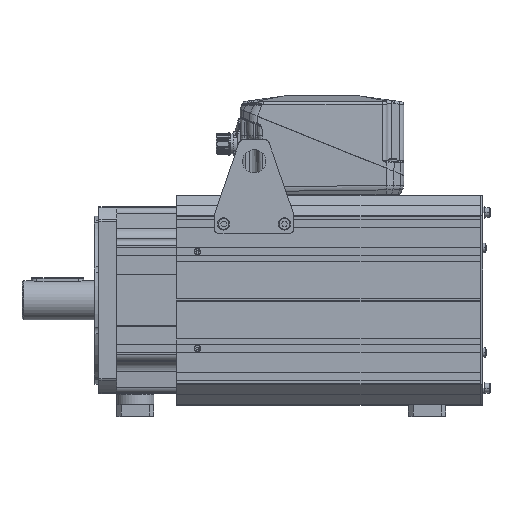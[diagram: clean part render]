
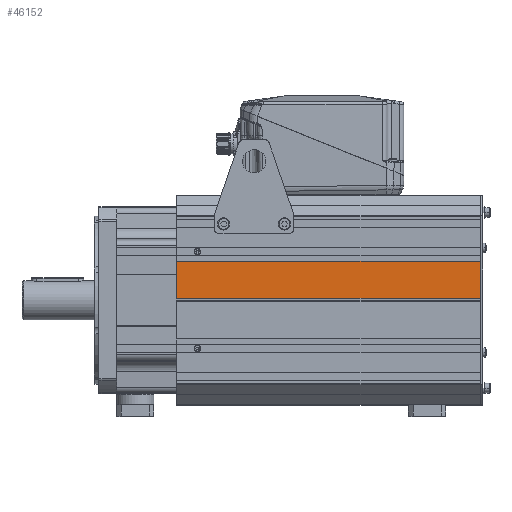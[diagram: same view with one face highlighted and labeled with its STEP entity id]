
A CAD part, top view. The second image highlights one B-rep face of the part: STEP entity #46152.
In plain terms, the highlighted planar face has unit normal (0, 0, 1).
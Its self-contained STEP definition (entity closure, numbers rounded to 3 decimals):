
#44416=DIRECTION('',(0.,-1.,0.));
#44417=VECTOR('',#44416,39.5);
#44418=CARTESIAN_POINT('',(165.5,41.5,111.5));
#44419=LINE('',#44418,#44417);
#44933=DIRECTION('',(1.,0.,0.));
#44934=VECTOR('',#44933,324.);
#44935=CARTESIAN_POINT('',(165.5,41.5,111.5));
#44936=LINE('',#44935,#44934);
#44937=DIRECTION('',(0.,-1.,0.));
#44938=VECTOR('',#44937,39.5);
#44939=CARTESIAN_POINT('',(489.5,41.5,111.5));
#44940=LINE('',#44939,#44938);
#44941=DIRECTION('',(1.,0.,0.));
#44942=VECTOR('',#44941,324.);
#44943=CARTESIAN_POINT('',(165.5,2.,111.5));
#44944=LINE('',#44943,#44942);
#45271=CARTESIAN_POINT('',(165.5,41.5,111.5));
#45272=VERTEX_POINT('',#45271);
#45273=CARTESIAN_POINT('',(165.5,2.,111.5));
#45274=VERTEX_POINT('',#45273);
#45277=CARTESIAN_POINT('',(489.5,41.5,111.5));
#45278=VERTEX_POINT('',#45277);
#45279=CARTESIAN_POINT('',(489.5,2.,111.5));
#45280=VERTEX_POINT('',#45279);
#46139=CARTESIAN_POINT('',(165.5,41.5,111.5));
#46140=DIRECTION('',(0.,0.,1.));
#46141=DIRECTION('',(0.,-1.,0.));
#46142=AXIS2_PLACEMENT_3D('',#46139,#46140,#46141);
#46143=PLANE('',#46142);
#46144=ORIENTED_EDGE('',*,*,#45450,.F.);
#46145=ORIENTED_EDGE('',*,*,#46134,.T.);
#46147=ORIENTED_EDGE('',*,*,#46146,.T.);
#46149=ORIENTED_EDGE('',*,*,#46148,.F.);
#46150=EDGE_LOOP('',(#46144,#46145,#46147,#46149));
#46151=FACE_OUTER_BOUND('',#46150,.F.);
#46152=ADVANCED_FACE('',(#46151),#46143,.T.);
#45450=EDGE_CURVE('',#45272,#45274,#44419,.T.);
#46134=EDGE_CURVE('',#45272,#45278,#44936,.T.);
#46146=EDGE_CURVE('',#45278,#45280,#44940,.T.);
#46148=EDGE_CURVE('',#45274,#45280,#44944,.T.);
